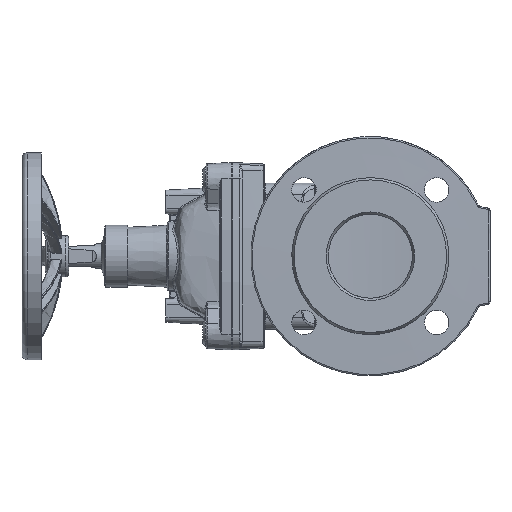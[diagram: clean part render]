
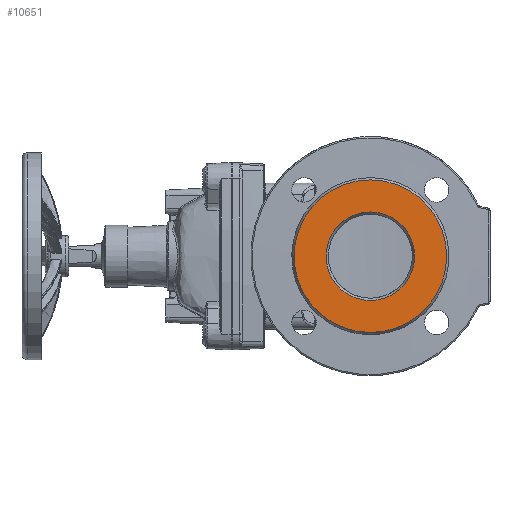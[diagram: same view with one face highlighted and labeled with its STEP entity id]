
A CAD part, left-side view. The second image highlights one B-rep face of the part: STEP entity #10651.
In plain terms, the highlighted planar face has unit normal (-1, 0, 0).
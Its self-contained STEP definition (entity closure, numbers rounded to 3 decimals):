
#10651 = ADVANCED_FACE ( 'NONE', ( #16535, #16596 ), #16540, .T. ) ;
#10723 = ORIENTED_EDGE ( 'NONE', *, *, #17946, .T. ) ;
#10726 = ORIENTED_EDGE ( 'NONE', *, *, #17811, .T. ) ;
#10878 = EDGE_LOOP ( 'NONE', ( #10726 ) ) ;
#10902 = EDGE_LOOP ( 'NONE', ( #10723 ) ) ;
#16419 = CARTESIAN_POINT ( 'NONE',  ( -85., 115.665, 0. ) ) ;
#16490 = DIRECTION ( 'NONE',  ( 0., 0., 1. ) ) ;
#16531 = AXIS2_PLACEMENT_3D ( 'NONE', #16419, #16599, #16490 ) ;
#16535 = FACE_OUTER_BOUND ( 'NONE', #10878, .T. ) ;
#16540 = PLANE ( 'NONE',  #16531 ) ;
#16596 = FACE_BOUND ( 'NONE', #10902, .T. ) ;
#16599 = DIRECTION ( 'NONE',  ( -1., 0., 0. ) ) ;
#17811 = EDGE_CURVE ( 'NONE', #33214, #33214, #45568, .T. ) ;
#17946 = EDGE_CURVE ( 'NONE', #33316, #33316, #45992, .T. ) ;
#33213 = CARTESIAN_POINT ( 'NONE',  ( -85., 0., 59. ) ) ;
#33214 = VERTEX_POINT ( 'NONE', #33213 ) ;
#33313 = CARTESIAN_POINT ( 'NONE',  ( -85., 0., 34.232 ) ) ;
#33316 = VERTEX_POINT ( 'NONE', #33313 ) ;
#45560 = DIRECTION ( 'NONE',  ( 0., 0., 1. ) ) ;
#45561 = DIRECTION ( 'NONE',  ( -1., 0., 0. ) ) ;
#45562 = CARTESIAN_POINT ( 'NONE',  ( -85., 0., 0. ) ) ;
#45563 = AXIS2_PLACEMENT_3D ( 'NONE', #45562, #45561, #45560 ) ;
#45568 = CIRCLE ( 'NONE', #45563, 59. ) ;
#45969 = DIRECTION ( 'NONE',  ( 0., 0., 1. ) ) ;
#45970 = DIRECTION ( 'NONE',  ( 1., 0., 0. ) ) ;
#45971 = CARTESIAN_POINT ( 'NONE',  ( -85., 0., 0. ) ) ;
#45976 = AXIS2_PLACEMENT_3D ( 'NONE', #45971, #45970, #45969 ) ;
#45992 = CIRCLE ( 'NONE', #45976, 34.232 ) ;
